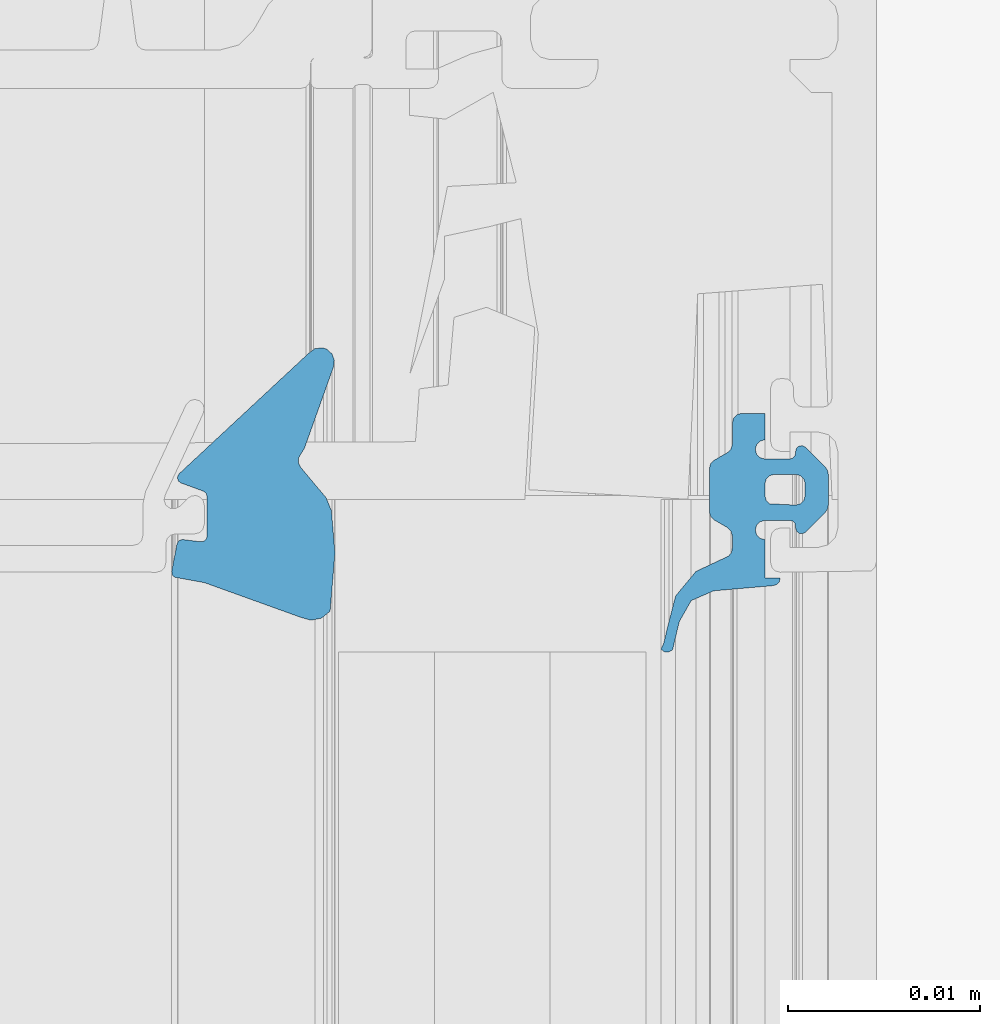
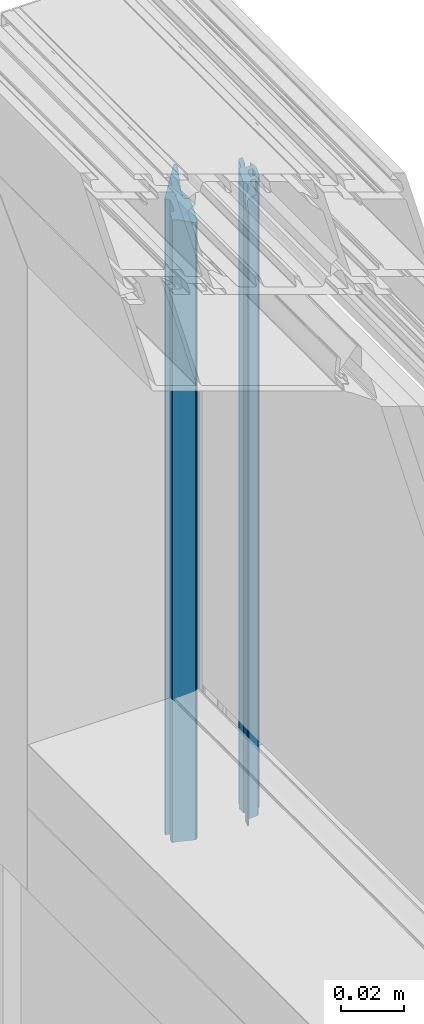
# One storey, part 51 of 65: 1 building element part, 2 elements without a shape of their own.
"""IFC2X3 building model written with IfcOpenShell, lengths in millimetres."""

import ifcopenshell
import ifcopenshell.guid

model = None  # the IFC model being written
_history = None  # IfcOwnerHistory: only IFC2X3 demands one
_inside = {}  # id of a spatial element -> (the spatial element, [elements in it])
_under = {}  # id of a project, library or spatial element -> (it, [spatial elements below it])
_declared = {}  # id of a project -> (the project, [libraries it declares])
_typed = {}  # id of a type object -> (the type object, [elements of that type])
_made_of = {}  # id of a material, layer set ... -> (it, [elements and type objects made of it])


def new_model(schema):
    """Start an empty IFC model of exactly this schema.

    Asked for "IFC4X3", IfcOpenShell would pick the latest addendum, in which some entities
    have other attributes; the version numbers below select the first issue.
    IFC2X3 requires an IfcOwnerHistory on every rooted entity: one is made here for all.
    """
    global model, _history
    if schema == "IFC4X3":
        model = ifcopenshell.file(schema_version=(4, 3, 0, 0))
    else:
        model = ifcopenshell.file(schema=schema)
    _inside.clear()
    _under.clear()
    _declared.clear()
    _typed.clear()
    _made_of.clear()
    _history = None
    if model.schema == "IFC2X3":
        org = make("IfcOrganization", Name="unknown")
        user = make(
            "IfcPersonAndOrganization",
            ThePerson=make("IfcPerson", FamilyName="unknown"),
            TheOrganization=org,
        )
        app = make(
            "IfcApplication",
            ApplicationDeveloper=org,
            Version="unknown",
            ApplicationFullName="unknown",
            ApplicationIdentifier="unknown",
        )
        _history = make(
            "IfcOwnerHistory",
            OwningUser=user,
            OwningApplication=app,
            ChangeAction="ADDED",
            CreationDate=0,
        )
    return model


def make(cls, **values):
    """One entity of the class cls with the attributes given. An attribute that is None is left unset."""
    return model.create_entity(
        cls, **{name: value for name, value in values.items() if value is not None}
    )


def entity(cls, *values):
    """Any entity or typed value of the class cls, its attributes in the order of the schema. None: left unset."""
    e = model.create_entity(cls)
    for i, value in enumerate(values):
        if value is not None:
            e[i] = value
    return e


def rooted(cls, **values):
    """An entity with a GlobalId (a new one), such as an element, a storey or a relation."""
    return make(cls, GlobalId=ifcopenshell.guid.new(), OwnerHistory=_history, **values)


def si_unit(unit_type, name, prefix=None):
    """IfcSIUnit, for example si_unit("LENGTHUNIT", "METRE", prefix="MILLI")."""
    return make("IfcSIUnit", UnitType=unit_type, Prefix=prefix, Name=name)


def converted_unit(unit_type, name, factor, base, dimensions=None, offset=None):
    """IfcConversionBasedUnit, such as the inch: factor (a typed value) times the base unit."""
    return make(
        "IfcConversionBasedUnit"
        if offset is None
        else "IfcConversionBasedUnitWithOffset",
        ConversionOffset=offset,
        Dimensions=None
        if dimensions is None
        else entity("IfcDimensionalExponents", *dimensions),
        UnitType=unit_type,
        Name=name,
        ConversionFactor=make(
            "IfcMeasureWithUnit", ValueComponent=factor, UnitComponent=base
        ),
    )


def derived_unit(unit_type, elements):
    """IfcDerivedUnit: a product of units, each with its exponent."""
    return make(
        "IfcDerivedUnit",
        Elements=[
            make("IfcDerivedUnitElement", Unit=unit, Exponent=power)
            for unit, power in elements
        ],
        UnitType=unit_type,
    )


def money_unit(currency):
    """IfcMonetaryUnit."""
    return make("IfcMonetaryUnit", Currency=currency)


def assignment(units):
    """IfcUnitAssignment: the units of a project."""
    return None if units is None else make("IfcUnitAssignment", Units=units)


def point(xyz):
    """IfcCartesianPoint."""
    return None if xyz is None else make("IfcCartesianPoint", Coordinates=xyz)


def direction(xyz):
    """IfcDirection."""
    return None if xyz is None else make("IfcDirection", DirectionRatios=xyz)


def frame(location, z_axis=None, x_axis=None):
    """IfcAxis2Placement3D, a coordinate frame: its origin and axes. An axis left out is left unset."""
    return make(
        "IfcAxis2Placement3D",
        Location=point(location),
        Axis=direction(z_axis),
        RefDirection=direction(x_axis),
    )


def origin_with_axes():
    """The frame at (0, 0, 0) with the z axis (0, 0, 1) and the x axis (1, 0, 0) written out."""
    return frame((0.0, 0.0, 0.0), z_axis=(0.0, 0.0, 1.0), x_axis=(1.0, 0.0, 0.0))


def place(relative_to, where):
    """IfcLocalPlacement: puts the frame where relative to a parent placement (None: the world)."""
    return make(
        "IfcLocalPlacement", PlacementRelTo=relative_to, RelativePlacement=where
    )


def context(
    kind, dimensions, precision=None, world=None, true_north=None, identifier=None
):
    """IfcGeometricRepresentationContext, for example the 3D "Model" context."""
    return make(
        "IfcGeometricRepresentationContext",
        ContextIdentifier=identifier,
        ContextType=kind,
        CoordinateSpaceDimension=dimensions,
        Precision=precision,
        WorldCoordinateSystem=world,
        TrueNorth=true_north,
    )


def subcontext(parent, identifier, kind, view, scale=None):
    """IfcGeometricRepresentationSubContext, for example "Body" below "Model"."""
    return make(
        "IfcGeometricRepresentationSubContext",
        ContextIdentifier=identifier,
        ContextType=kind,
        ParentContext=parent,
        TargetScale=scale,
        TargetView=view,
    )


def project(units=None, contexts=None):
    """IfcProject with its units and contexts."""
    return rooted(
        "IfcProject",
        Name="project",
        RepresentationContexts=contexts,
        UnitsInContext=assignment(units),
    )


def spatial(cls, under=None, at=None, **own):
    """A site, building, storey or space (cls), placed at a placement, below another one or the project."""
    s = rooted(cls, ObjectPlacement=at, **own)
    if under is not None:
        _under.setdefault(under.id(), (under, []))[1].append(s)
    return s


def faces_of(points, faces, orient=None, outer=None):
    """IfcFace entities. A face is a list of loops; a loop is a list of indices into points, from 0.

    orient and outer hold one flag for each loop. By default every Orientation is true, the
    first loop of a face is its IfcFaceOuterBound and the others are IfcFaceBound.
    """
    made = []
    for i, loops in enumerate(faces):
        bounds = []
        for j, loop in enumerate(loops):
            is_outer = j == 0 if outer is None else outer[i][j]
            bounds.append(
                make(
                    "IfcFaceOuterBound" if is_outer else "IfcFaceBound",
                    Bound=make("IfcPolyLoop", Polygon=[points[k] for k in loop]),
                    Orientation=True if orient is None else orient[i][j],
                )
            )
        made.append(make("IfcFace", Bounds=bounds))
    return made


def faceted_brep(points, faces, orient=None, outer=None, voids=None):
    """IfcFacetedBrep: a solid bounded by flat faces; with voids (closed shells), ...WithVoids."""
    shared = [point(p) for p in points]
    hull = make("IfcClosedShell", CfsFaces=faces_of(shared, faces, orient, outer))
    if voids is None:
        return make("IfcFacetedBrep", Outer=hull)
    return make(
        "IfcFacetedBrepWithVoids",
        Outer=hull,
        Voids=[
            make(cls, CfsFaces=faces_of(shared, fs, o, b)) for cls, fs, o, b in voids
        ],
    )


def shape(context_of_items, identifier, shape_type, items):
    """IfcShapeRepresentation: the items that make up one representation, for example the "Body"."""
    return make(
        "IfcShapeRepresentation",
        ContextOfItems=context_of_items,
        RepresentationIdentifier=identifier,
        RepresentationType=shape_type,
        Items=items,
    )


def material(Name=None, Category=None):
    """IfcMaterial."""
    return make("IfcMaterial", Name=Name, Category=Category)


def made_of(thing, what):
    """Note that an element or type object is made of a material, layer set ...; save() writes the relation."""
    if what is not None:
        _made_of.setdefault(what.id(), (what, []))[1].append(thing)
    return thing


def type_object(cls, material=None, **own):
    """A type object (cls), such as IfcWallType, which elements share."""
    return made_of(rooted(cls, **own), material)


def element(
    cls,
    number,
    at=None,
    inside=None,
    cuts=None,
    type_object=None,
    material=None,
    context=None,
    identifier="Body",
    shape_type=None,
    held_by="IfcProductDefinitionShape",
    body=None,
    shapes=None,
    **own,
):
    """One element of the class cls, such as IfcWall. Its Tag is "e" and its number.

    at: its placement. inside: the storey or other place that contains it. cuts: it is an
    opening in that element (IfcRelVoidsElement). A single representation is given by context,
    identifier, shape_type and body (its items); several are given by shapes. held_by: the class
    of the entity that holds the representations. save() writes the other relations.
    """
    e = rooted(cls, Tag="e%d" % number, ObjectPlacement=at, **own)
    if body is not None:
        shapes = [shape(context, identifier, shape_type, body)]
    if shapes is not None:
        e.Representation = make(held_by, Representations=shapes)
    if inside is not None:
        _inside.setdefault(inside.id(), (inside, []))[1].append(e)
    if cuts is not None:
        rooted(
            "IfcRelVoidsElement", RelatingBuildingElement=cuts, RelatedOpeningElement=e
        )
    if type_object is not None:
        _typed.setdefault(type_object.id(), (type_object, []))[1].append(e)
    return made_of(e, material)


def aggregate(whole, parts):
    """IfcRelAggregates: a whole, such as a stair, and the parts it consists of."""
    return rooted("IfcRelAggregates", RelatingObject=whole, RelatedObjects=parts)


def save(model, path):
    """Write the relations noted so far, then the file.

    IfcRelAggregates (storeys below a building ...), IfcRelContainedInSpatialStructure (elements
    in a storey), IfcRelDefinesByType, IfcRelAssociatesMaterial and IfcRelDeclares: one each for
    every whole, place, type object, material and project.
    """
    for whole, parts in _under.values():
        aggregate(whole, parts)
    for where, things in _inside.values():
        rooted(
            "IfcRelContainedInSpatialStructure",
            RelatedElements=things,
            RelatingStructure=where,
        )
    for kind, things in _typed.values():
        rooted("IfcRelDefinesByType", RelatedObjects=things, RelatingType=kind)
    for what, things in _made_of.values():
        rooted("IfcRelAssociatesMaterial", RelatedObjects=things, RelatingMaterial=what)
    for by, libraries in _declared.values():
        rooted("IfcRelDeclares", RelatingContext=by, RelatedDefinitions=libraries)
    model.write(path)


model = new_model("IFC2X3")

# Units and contexts
model_context = context("Model", 3, precision=0.01, world=origin_with_axes(), true_north=direction((0.0, 1.0)))
body_context = subcontext(model_context, "Body", "Model", "MODEL_VIEW")
ifc_project = project(units=[si_unit("LENGTHUNIT", "METRE", prefix="MILLI"), si_unit("AREAUNIT", "SQUARE_METRE"), si_unit("VOLUMEUNIT", "CUBIC_METRE"), converted_unit("PLANEANGLEUNIT", "DEGREE", entity("IfcPlaneAngleMeasure", 0.0174532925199), si_unit("PLANEANGLEUNIT", "RADIAN"), dimensions=[0, 0, 0, 0, 0, 0, 0]), si_unit("SOLIDANGLEUNIT", "STERADIAN"), money_unit("EUR"), converted_unit("TIMEUNIT", "Year", entity("IfcTimeMeasure", 31556926.0), si_unit("TIMEUNIT", "SECOND"), dimensions=[0, 0, 1, 0, 0, 0, 0]), si_unit("MASSUNIT", "GRAM", prefix="KILO"), si_unit("THERMODYNAMICTEMPERATUREUNIT", "DEGREE_CELSIUS"), si_unit("LUMINOUSINTENSITYUNIT", "LUMEN"), si_unit("ENERGYUNIT", "JOULE", prefix="MEGA"), derived_unit("THERMALCONDUCTANCEUNIT", [(si_unit("POWERUNIT", "WATT"), 1), (si_unit("LENGTHUNIT", "METRE"), -1), (si_unit("THERMODYNAMICTEMPERATUREUNIT", "KELVIN"), -1)]), derived_unit("SPECIFICHEATCAPACITYUNIT", [(si_unit("ENERGYUNIT", "JOULE"), 1), (si_unit("MASSUNIT", "GRAM", prefix="KILO"), -1), (si_unit("THERMODYNAMICTEMPERATUREUNIT", "KELVIN"), -1)]), derived_unit("MASSDENSITYUNIT", [(si_unit("MASSUNIT", "GRAM", prefix="KILO"), 1), (si_unit("VOLUMEUNIT", "CUBIC_METRE"), -1)])], contexts=[model_context])

# Site, building, storey
site_placement = place(None, origin_with_axes())
site = spatial("IfcSite", under=ifc_project, at=site_placement, Name="Puškini 31, Narva", CompositionType="ELEMENT")
building_placement = place(site_placement, origin_with_axes())
building = spatial("IfcBuilding", under=site, at=building_placement, Name="Narva Riigigümnaasium", CompositionType="ELEMENT")
storey_placement = place(building_placement, frame((0.0, 0.0, -1320.0), z_axis=(0.0, 0.0, 1.0), x_axis=(1.0, 0.0, 0.0)))
storey = spatial("IfcBuildingStorey", under=building, at=storey_placement, Name="1.korrus -1.32", CompositionType="ELEMENT", Elevation=-1320.0)

# Curtain wall, member, building element part
curtain_wall_type = type_object("IfcCurtainWallType", Name="Curtain Wall Type", PredefinedType="NOTDEFINED")
curtain_wall_placement = place(storey_placement, frame((28354.9542923, 194209.397521, 0.0), z_axis=(0.0, 0.0, 1.0), x_axis=(1.0, 0.0, 0.0)))
curtain_wall = element("IfcCurtainWall", 1, at=curtain_wall_placement, inside=storey, type_object=curtain_wall_type, Name="G-SKLF-07")
member_type = type_object("IfcMemberType", Name="61 x 45", PredefinedType="MULLION")
member_placement = place(curtain_wall_placement, frame((0.00198791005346, 490.602478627, 2400.0), z_axis=(0.0, 0.0, 1.0), x_axis=(-4.05197719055e-06, -0.999999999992, 0.0)))
member = element("IfcMember", 2, at=member_placement, type_object=member_type, Name="G-SKLF-07-raam", ObjectType="MULLION")
aggregate(curtain_wall, [member])
ifc_material = material(Name="Membraan - Veekindel")
building_element_part_placement = place(member_placement, origin_with_axes())
building_element_part = element("IfcBuildingElementPart", 3, at=building_element_part_placement, material=ifc_material, Name="Membraan - Veekindel", context=body_context, shape_type="Brep", body=[
    faceted_brep([(61.0413385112, 34.3890442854, 0.0), (59.5800222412, 34.73794757, 0.0), (59.5800222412, 34.73794757, 240.419977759), (61.0413385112, 34.3890442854, 238.958661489), (61.1536677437, 34.1934467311, 0.0), (61.1423164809, 33.9681748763, 0.0), (61.0108941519, 33.784859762, 0.0), (60.7381535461, 33.9217644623, 0.0), (59.8409257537, 34.1343131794, 0.0), (58.2346494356, 34.5489145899, 0.0), (56.9567944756, 35.6067920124, 0.0), (56.2495873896, 37.1074172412, 0.0), (56.1542959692, 37.3107917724, 0.0), (55.9795989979, 37.4519392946, 0.0), (55.7607444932, 37.5023809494, 0.0), (55.1093263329, 37.5023809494, 0.0), (54.8593263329, 37.4353936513, 0.0), (54.676313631, 37.2523809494, 0.0), (54.2721684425, 36.5523809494, 0.0), (54.0891557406, 36.3693682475, 0.0), (53.8391557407, 36.3023809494, 0.0), (51.602145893, 36.3023809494, 0.0), (51.352145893, 36.3693682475, 0.0), (51.1691331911, 36.5523809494, 0.0), (50.7649880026, 37.2523809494, 0.0), (50.5819753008, 37.4353936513, 0.0), (50.3319753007, 37.5023809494, 0.0), (49.2206527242, 37.5023809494, 0.0), (48.9706527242, 37.5693682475, 0.0), (48.7876400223, 37.7523809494, 0.0), (48.7206527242, 38.0023809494, 0.0), (48.7206527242, 39.1999494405, 0.0), (50.10004, 39.1999494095, 0.0), (50.1670287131, 38.9499497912, 0.0), (50.3500424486, 38.7669381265, 0.0), (50.6000428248, 38.699952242, 0.0), (50.8500424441, 38.7669409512, 0.0), (51.0330541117, 38.9499546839, 0.0), (51.10004, 39.1999550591, 0.0), (51.10004, 40.4999366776, 0.0), (51.0598476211, 40.6499366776, 0.0), (50.95004, 40.7597442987, 0.0), (50.80004, 40.7999366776, 0.0), (50.7000457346, 40.7999366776, 0.0), (50.5334025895, 40.8504763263, 0.0), (50.4229059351, 40.9850671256, 0.0), (50.4057850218, 41.1583618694, 0.0), (50.4878083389, 41.3119729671, 0.0), (51.5281601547, 42.3533311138, 0.0), (51.6904310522, 42.4618421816, 0.0), (51.8818844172, 42.4999486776, 0.0), (53.517932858, 42.4999486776, 0.0), (53.7093558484, 42.4618547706, 0.0), (53.8716106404, 42.3533776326, 0.0), (54.9122350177, 41.3120206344, 0.0), (54.9942836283, 41.1584047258, 0.0), (54.9771753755, 40.9850924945, 0.0), (54.866675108, 40.850483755, 0.0), (54.7000173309, 40.7999366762, 0.0), (54.6000210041, 40.7999366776, 0.0), (54.4500210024, 40.7597443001, 0.0), (54.3402133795, 40.6499366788, 0.0), (54.300021, 40.4999366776, 0.0), (54.300021, 39.1999606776, 0.0), (54.3670082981, 38.9499606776, 0.0), (54.5500210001, 38.7669479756, 0.0), (54.8000210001, 38.6999606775, 0.0), (55.0500210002, 38.7669479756, 0.0), (55.2330337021, 38.9499606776, 0.0), (55.3000210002, 39.1999606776, 0.0), (57.3000022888, 39.1999494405, 0.0), (57.3000022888, 39.9999846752, 0.0), (57.5000161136, 39.946391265, 0.0), (57.6464370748, 39.799971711, 0.0), (57.7000324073, 39.5999584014, 0.0), (57.9693613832, 36.5265882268, 0.0), (58.4755028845, 35.3628499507, 0.0), (53.5000340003, 40.7999553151, 0.0), (53.4330491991, 41.0499459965, 0.0), (53.2500433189, 41.2329518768, 0.0), (53.0000526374, 41.299936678, 0.0), (52.4000083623, 41.299936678, 0.0), (52.150017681, 41.2329518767, 0.0), (51.9670118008, 41.0499459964, 0.0), (51.9000269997, 40.799955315, 0.0), (51.9000269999, 39.6999268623, 0.0), (51.9670129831, 39.4499317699, 0.0), (52.1500220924, 39.2669226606, 0.0), (52.4000171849, 39.1999366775, 0.0), (53.0000438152, 39.1999366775, 0.0), (53.2500389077, 39.2669226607, 0.0), (53.433048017, 39.44993177, 0.0), (58.4755028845, 35.3628499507, 241.524497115), (57.9693613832, 36.5265882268, 242.030638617), (57.7000324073, 39.5999584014, 242.299967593), (57.6464370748, 39.799971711, 242.353562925), (57.5000161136, 39.946391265, 242.499983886), (57.3000022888, 39.9999846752, 242.699997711), (57.3000022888, 39.1999494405, 242.699997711), (55.3000210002, 39.1999606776, 244.699979), (55.2330337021, 38.9499606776, 244.766966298), (55.0500210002, 38.7669479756, 244.949979), (54.8000210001, 38.6999606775, 245.199979), (54.5500210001, 38.7669479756, 245.449979), (54.3670082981, 38.9499606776, 245.632991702), (54.300021, 39.1999606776, 245.699979), (54.300021, 40.4999366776, 245.699979), (54.3402133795, 40.6499366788, 245.65978662), (54.4500210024, 40.7597443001, 245.549978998), (54.6000210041, 40.7999366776, 245.399978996), (54.7000173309, 40.7999366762, 245.299982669), (54.866675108, 40.850483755, 245.133324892), (54.9771753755, 40.9850924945, 245.022824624), (54.9942836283, 41.1584047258, 245.005716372), (54.9122350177, 41.3120206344, 245.087764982), (53.8716106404, 42.3533776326, 246.12838936), (53.7093558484, 42.4618547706, 246.290644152), (53.517932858, 42.4999486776, 246.482067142), (51.8818844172, 42.4999486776, 248.118115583), (51.6904310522, 42.4618421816, 248.309568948), (51.5281601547, 42.3533311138, 248.471839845), (50.4878083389, 41.3119729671, 249.512191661), (50.4057850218, 41.1583618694, 249.594214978), (50.4229059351, 40.9850671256, 249.577094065), (50.5334025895, 40.8504763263, 249.466597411), (50.7000457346, 40.7999366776, 249.299954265), (50.80004, 40.7999366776, 249.19996), (50.95004, 40.7597442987, 249.04996), (51.0598476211, 40.6499366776, 248.940152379), (51.10004, 40.4999366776, 248.89996), (51.10004, 39.1999550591, 248.89996), (51.0330541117, 38.9499546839, 248.966945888), (50.8500424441, 38.7669409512, 249.149957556), (50.6000428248, 38.699952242, 249.399957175), (50.3500424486, 38.7669381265, 249.649957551), (50.1670287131, 38.9499497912, 249.832971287), (50.10004, 39.1999494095, 249.89996), (48.7206527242, 39.1999494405, 251.279347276), (48.7206527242, 38.0023809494, 251.279347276), (48.7876400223, 37.7523809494, 251.212359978), (48.9706527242, 37.5693682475, 251.029347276), (49.2206527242, 37.5023809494, 250.779347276), (50.3319753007, 37.5023809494, 249.668024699), (50.5819753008, 37.4353936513, 249.418024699), (50.7649880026, 37.2523809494, 249.235011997), (51.1691331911, 36.5523809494, 248.830866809), (51.352145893, 36.3693682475, 248.647854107), (51.602145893, 36.3023809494, 248.397854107), (53.8391557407, 36.3023809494, 246.160844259), (54.0891557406, 36.3693682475, 245.910844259), (54.2721684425, 36.5523809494, 245.727831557), (54.676313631, 37.2523809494, 245.323686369), (54.8593263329, 37.4353936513, 245.140673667), (55.1093263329, 37.5023809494, 244.890673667), (55.7607444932, 37.5023809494, 244.239255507), (55.9795989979, 37.4519392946, 244.020401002), (56.1542959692, 37.3107917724, 243.845704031), (56.2495873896, 37.1074172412, 243.75041261), (56.9567944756, 35.6067920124, 243.043205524), (58.2346494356, 34.5489145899, 241.765350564), (59.8409257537, 34.1343131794, 240.159074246), (60.7381535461, 33.9217644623, 239.261846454), (61.0108941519, 33.784859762, 238.989105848), (61.1423164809, 33.9681748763, 238.857683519), (61.1536677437, 34.1934467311, 238.846332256), (53.5000340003, 40.7999553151, 246.499966), (53.433048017, 39.44993177, 246.566951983), (53.2500389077, 39.2669226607, 246.749961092), (53.0000438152, 39.1999366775, 246.999956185), (52.4000171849, 39.1999366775, 247.599982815), (52.1500220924, 39.2669226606, 247.849977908), (51.9670129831, 39.4499317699, 248.032987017), (51.9000269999, 39.6999268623, 248.099973), (51.9000269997, 40.799955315, 248.099973), (51.9670118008, 41.0499459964, 248.032988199), (52.150017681, 41.2329518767, 247.849982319), (52.4000083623, 41.299936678, 247.599991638), (53.0000526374, 41.299936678, 246.999947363), (53.2500433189, 41.2329518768, 246.749956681), (53.4330491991, 41.0499459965, 246.566950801)], [[[0, 1, 2, 3]], [[0, 4, 5, 6, 7, 8, 9, 10, 11, 12, 13, 14, 15, 16, 17, 18, 19, 20, 21, 22, 23, 24, 25, 26, 27, 28, 29, 30, 31, 32, 33, 34, 35, 36, 37, 38, 39, 40, 41, 42, 43, 44, 45, 46, 47, 48, 49, 50, 51, 52, 53, 54, 55, 56, 57, 58, 59, 60, 61, 62, 63, 64, 65, 66, 67, 68, 69, 70, 71, 72, 73, 74, 75, 76, 1], [77, 78, 79, 80, 81, 82, 83, 84, 85, 86, 87, 88, 89, 90, 91]], [[1, 76, 92, 2]], [[3, 2, 92, 93, 94, 95, 96, 97, 98, 99, 100, 101, 102, 103, 104, 105, 106, 107, 108, 109, 110, 111, 112, 113, 114, 115, 116, 117, 118, 119, 120, 121, 122, 123, 124, 125, 126, 127, 128, 129, 130, 131, 132, 133, 134, 135, 136, 137, 138, 139, 140, 141, 142, 143, 144, 145, 146, 147, 148, 149, 150, 151, 152, 153, 154, 155, 156, 157, 158, 159, 160, 161, 162, 163, 164], [165, 166, 167, 168, 169, 170, 171, 172, 173, 174, 175, 176, 177, 178, 179]], [[4, 0, 3, 164]], [[5, 4, 164, 163]], [[6, 5, 163, 162]], [[7, 6, 162, 161]], [[8, 7, 161, 160]], [[9, 8, 160, 159]], [[10, 9, 159, 158]], [[11, 10, 158, 157]], [[12, 11, 157, 156]], [[13, 12, 156, 155]], [[14, 13, 155, 154]], [[15, 14, 154, 153]], [[16, 15, 153, 152]], [[17, 16, 152, 151]], [[18, 17, 151, 150]], [[19, 18, 150, 149]], [[20, 19, 149, 148]], [[21, 20, 148, 147]], [[22, 21, 147, 146]], [[23, 22, 146, 145]], [[24, 23, 145, 144]], [[25, 24, 144, 143]], [[26, 25, 143, 142]], [[27, 26, 142, 141]], [[28, 27, 141, 140]], [[29, 28, 140, 139]], [[30, 29, 139, 138]], [[31, 30, 138, 137]], [[32, 31, 137, 136]], [[33, 32, 136, 135]], [[34, 33, 135, 134]], [[35, 34, 134, 133]], [[36, 35, 133, 132]], [[37, 36, 132, 131]], [[38, 37, 131, 130]], [[39, 38, 130, 129]], [[40, 39, 129, 128]], [[41, 40, 128, 127]], [[42, 41, 127, 126]], [[43, 42, 126, 125]], [[44, 43, 125, 124]], [[45, 44, 124, 123]], [[46, 45, 123, 122]], [[47, 46, 122, 121]], [[48, 47, 121, 120]], [[49, 48, 120, 119]], [[50, 49, 119, 118]], [[51, 50, 118, 117]], [[52, 51, 117, 116]], [[53, 52, 116, 115]], [[54, 53, 115, 114]], [[55, 54, 114, 113]], [[56, 55, 113, 112]], [[57, 56, 112, 111]], [[58, 57, 111, 110]], [[59, 58, 110, 109]], [[60, 59, 109, 108]], [[61, 60, 108, 107]], [[62, 61, 107, 106]], [[63, 62, 106, 105]], [[64, 63, 105, 104]], [[65, 64, 104, 103]], [[66, 65, 103, 102]], [[67, 66, 102, 101]], [[68, 67, 101, 100]], [[69, 68, 100, 99]], [[70, 69, 99, 98]], [[71, 70, 98, 97]], [[72, 71, 97, 96]], [[73, 72, 96, 95]], [[74, 73, 95, 94]], [[75, 74, 94, 93]], [[76, 75, 93, 92]], [[78, 77, 165, 179]], [[79, 78, 179, 178]], [[80, 79, 178, 177]], [[81, 80, 177, 176]], [[82, 81, 176, 175]], [[83, 82, 175, 174]], [[84, 83, 174, 173]], [[85, 84, 173, 172]], [[86, 85, 172, 171]], [[87, 86, 171, 170]], [[88, 87, 170, 169]], [[89, 88, 169, 168]], [[90, 89, 168, 167]], [[91, 90, 167, 166]], [[77, 91, 166, 165]]]),
    faceted_brep([(59.0307115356, 16.554149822, 0.0), (55.9926715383, 16.8063498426, 0.0), (55.9926715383, 16.8063498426, 244.007328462), (59.0307115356, 16.554149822, 240.969288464), (59.3884652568, 16.1092618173, 0.0), (59.5001582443, 15.5494067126, 0.0), (59.3405112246, 15.0012955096, 0.0), (57.5418652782, 10.0035930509, 0.0), (57.2632233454, 8.46932121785, 0.0), (57.1824204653, 8.36745448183, 0.0), (57.0661058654, 8.3093438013, 0.0), (56.9361285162, 8.30590490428, 0.0), (55.5361285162, 8.57803733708, 0.0), (55.4168250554, 8.62997353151, 0.0), (55.3307332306, 8.72753828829, 0.0), (55.2940485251, 8.85237785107, 0.0), (55.4099827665, 9.81272116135, 0.0), (55.3838261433, 9.9780831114, 0.0), (55.2731258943, 10.1036784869, 0.0), (55.1123574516, 10.1503930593, 0.0), (53.0580290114, 10.1503930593, 0.0), (52.8859560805, 10.0961386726, 0.0), (52.7761212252, 9.95299910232, 0.0), (52.3556584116, 8.79778701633, 0.0), (52.2574645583, 8.66326410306, 0.0), (52.1026310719, 8.60190419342, 0.0), (51.938943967, 8.6326446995, 0.0), (51.8169217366, 8.74599822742, 0.0), (45.6142070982, 15.4144760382, 0.0), (45.3418968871, 15.7688623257, 0.0), (45.3195226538, 16.2152275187, 0.0), (45.3889077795, 16.3899097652, 0.0), (45.6241929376, 16.6482027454, 0.0), (45.950966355, 16.7718696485, 0.0), (46.298307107, 16.7340705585, 0.0), (50.5536994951, 15.2121179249, 0.0), (50.8437237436, 15.0307134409, 0.0), (51.0558924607, 14.9074036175, 0.0), (51.3011765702, 14.8998814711, 0.0), (51.5205025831, 15.0099586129, 0.0), (53.1225200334, 16.3483062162, 0.0), (53.7899070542, 16.6230039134, 0.0), (53.7899070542, 16.6230039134, 246.210092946), (53.1225200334, 16.3483062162, 246.877479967), (51.5205025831, 15.0099586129, 248.479497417), (51.3011765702, 14.8998814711, 248.69882343), (51.0558924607, 14.9074036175, 248.944107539), (50.8437237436, 15.0307134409, 249.156276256), (50.5536994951, 15.2121179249, 249.446300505), (46.298307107, 16.7340705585, 253.701692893), (45.950966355, 16.7718696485, 254.049033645), (45.6241929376, 16.6482027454, 254.375807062), (45.3889077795, 16.3899097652, 254.611092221), (45.3195226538, 16.2152275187, 254.680477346), (45.3418968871, 15.7688623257, 254.658103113), (45.6142070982, 15.4144760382, 254.385792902), (51.8169217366, 8.74599822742, 248.183078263), (51.938943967, 8.6326446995, 248.061056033), (52.1026310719, 8.60190419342, 247.897368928), (52.2574645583, 8.66326410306, 247.742535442), (52.3556584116, 8.79778701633, 247.644341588), (52.7761212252, 9.95299910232, 247.223878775), (52.8859560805, 10.0961386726, 247.11404392), (53.0580290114, 10.1503930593, 246.941970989), (55.1123574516, 10.1503930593, 244.887642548), (55.2731258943, 10.1036784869, 244.726874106), (55.3838261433, 9.9780831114, 244.616173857), (55.4099827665, 9.81272116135, 244.590017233), (55.2940485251, 8.85237785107, 244.705951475), (55.3307332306, 8.72753828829, 244.669266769), (55.4168250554, 8.62997353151, 244.583174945), (55.5361285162, 8.57803733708, 244.463871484), (56.9361285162, 8.30590490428, 243.063871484), (57.0661058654, 8.3093438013, 242.933894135), (57.1824204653, 8.36745448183, 242.817579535), (57.2632233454, 8.46932121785, 242.736776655), (57.5418652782, 10.0035930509, 242.458134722), (59.3405112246, 15.0012955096, 240.659488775), (59.5001582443, 15.5494067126, 240.499841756), (59.3884652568, 16.1092618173, 240.611534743)], [[[0, 1, 2, 3]], [[0, 4, 5, 6, 7, 8, 9, 10, 11, 12, 13, 14, 15, 16, 17, 18, 19, 20, 21, 22, 23, 24, 25, 26, 27, 28, 29, 30, 31, 32, 33, 34, 35, 36, 37, 38, 39, 40, 41, 1]], [[1, 41, 42, 2]], [[3, 2, 42, 43, 44, 45, 46, 47, 48, 49, 50, 51, 52, 53, 54, 55, 56, 57, 58, 59, 60, 61, 62, 63, 64, 65, 66, 67, 68, 69, 70, 71, 72, 73, 74, 75, 76, 77, 78, 79]], [[4, 0, 3, 79]], [[5, 4, 79, 78]], [[6, 5, 78, 77]], [[7, 6, 77, 76]], [[8, 7, 76, 75]], [[9, 8, 75, 74]], [[10, 9, 74, 73]], [[11, 10, 73, 72]], [[12, 11, 72, 71]], [[13, 12, 71, 70]], [[14, 13, 70, 69]], [[15, 14, 69, 68]], [[16, 15, 68, 67]], [[17, 16, 67, 66]], [[18, 17, 66, 65]], [[19, 18, 65, 64]], [[20, 19, 64, 63]], [[21, 20, 63, 62]], [[22, 21, 62, 61]], [[23, 22, 61, 60]], [[24, 23, 60, 59]], [[25, 24, 59, 58]], [[26, 25, 58, 57]], [[27, 26, 57, 56]], [[28, 27, 56, 55]], [[29, 28, 55, 54]], [[30, 29, 54, 53]], [[31, 30, 53, 52]], [[32, 31, 52, 51]], [[33, 32, 51, 50]], [[34, 33, 50, 49]], [[35, 34, 49, 48]], [[36, 35, 48, 47]], [[37, 36, 47, 46]], [[38, 37, 46, 45]], [[39, 38, 45, 44]], [[40, 39, 44, 43]], [[41, 40, 43, 42]]]),
])
aggregate(member, [building_element_part])

save(model, "model.ifc")
